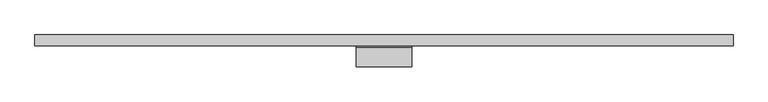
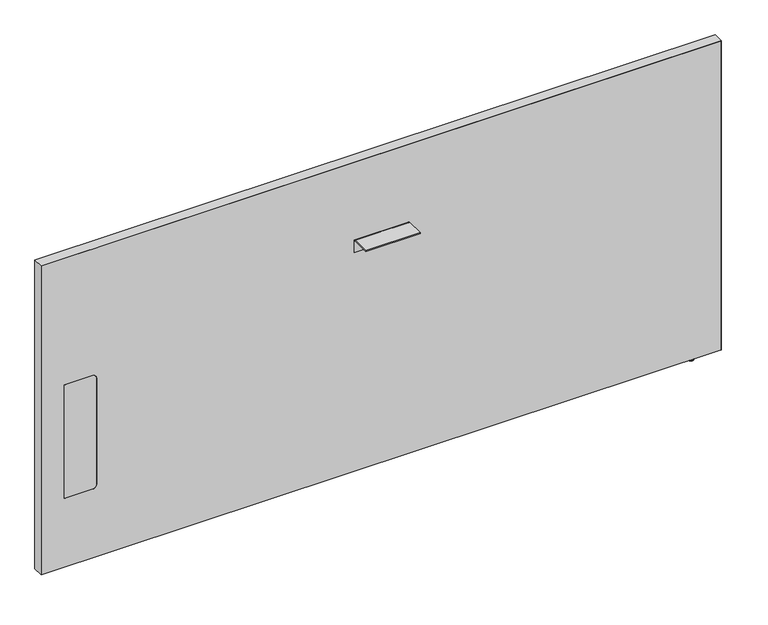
"""IFC4 building model written with IfcOpenShell, lengths in millimetres: furniture geometry, Steelcase - Answer Solution - Boundary Screen - Straight - Single Sided : 36H x 75W."""

from ifc_helpers import new_model, si_unit, point, frame, frame_2d, origin, place, context, project, spatial, polyline, circle_curve, ellipse_curve, trimmed, segment, composite_curve, outline, extrude, source, transform, mapped, element, save
from ifc_brep_helpers import plane_surface, cylinder_surface, revolved_surface, advanced_brep


def furniture_f1a63f30(model_context):
    return source(origin(), model_context, "Body", "SolidModel", [
        extrude(outline(composite_curve([segment(polyline([(-86.8398151, 696.4680019), (-86.8398151, 698.5), (-34.9450855, 698.5)]), True, "CONTINUOUS"), segment(trimmed(circle_curve(frame_2d((-34.9450855, 693.2447477)), 5.2552523), [point((-34.9450855, 698.5))], [point((-29.6898332, 693.2447477))], False, "CARTESIAN"), True, "CONTINUOUS"), segment(polyline([(-29.6898332, 693.2447477), (-29.6898332, 660.4), (-31.7218162, 660.4), (-31.7218162, 693.0058743)]), True, "CONTINUOUS"), segment(trimmed(circle_curve(frame_2d((-35.1839438, 693.0058743)), 3.4621276), [point((-31.7218162, 693.0058743))], [point((-35.1839438, 696.4680019))], True, "CARTESIAN"), True, "CONTINUOUS"), segment(polyline([(-35.1839438, 696.4680019), (-86.8398151, 696.4680019)]), True, "CONTINUOUS")], self_intersect=False)), frame((229.8191407, 0.0, 0.0), z_axis=(1.0, 0.0, 0.0), x_axis=(0.0, 1.0, 0.0)), (0.0, 0.0, 1.0), 152.4000969),
        advanced_brep(
        [(1181.3286488, -23.7588726, 9.9059849), (1181.3286488, -5.9309607, 9.9059849), (1181.3286488, -14.8449166, 9.9059849), (1181.3286488, -23.7588726, 2.9673238), (1181.3286488, -5.9309607, 2.9673238), (1181.3286488, -22.7915354, 2.9673238), (1181.3286488, -6.8982978, 2.9673238), (1181.3286488, -22.7915354, 1.6569081), (1181.3286488, -6.8982978, 1.6569081), (1181.3286488, -21.1346274, 0.0), (1181.3286488, -8.5552059, 0.0), (1181.3286488, -14.8449166, 0.0)],
        [
            (0, 1, circle_curve(frame((1181.3286488, -14.8449166, 9.9059849), z_axis=(0.0, 0.0, 1.0), x_axis=(0.0, 1.0, 0.0)), 8.913956)),
            (1, 2),
            (2, 0),
            (1, 0, circle_curve(frame((1181.3286488, -14.8449166, 9.9059849), z_axis=(0.0, 0.0, 1.0), x_axis=(0.0, 1.0, 0.0)), 8.913956)),
            (3, 4, circle_curve(frame((1181.3286488, -14.8449166, 2.9673238), z_axis=(0.0, 0.0, 1.0), x_axis=(0.0, 1.0, 0.0)), 8.913956)),
            (4, 1),
            (0, 3),
            (4, 3, circle_curve(frame((1181.3286488, -14.8449166, 2.9673238), z_axis=(0.0, 0.0, 1.0), x_axis=(0.0, 1.0, 0.0)), 8.913956)),
            (5, 6, circle_curve(frame((1181.3286488, -14.8449166, 2.9673238), z_axis=(0.0, 0.0, 1.0), x_axis=(0.0, 1.0, 0.0)), 7.9466188)),
            (6, 4),
            (3, 5),
            (6, 5, circle_curve(frame((1181.3286488, -14.8449166, 2.9673238), z_axis=(0.0, 0.0, 1.0), x_axis=(0.0, 1.0, 0.0)), 7.9466188)),
            (7, 8, circle_curve(frame((1181.3286488, -14.8449166, 1.6569081), z_axis=(0.0, 0.0, 1.0), x_axis=(0.0, 1.0, 0.0)), 7.9466188)),
            (8, 6),
            (5, 7),
            (8, 7, circle_curve(frame((1181.3286488, -14.8449166, 1.6569081), z_axis=(0.0, 0.0, 1.0), x_axis=(0.0, 1.0, 0.0)), 7.9466188)),
            (9, 10, circle_curve(frame((1181.3286488, -14.8449166, 0.0), z_axis=(0.0, 0.0, 1.0), x_axis=(0.0, 1.0, 0.0)), 6.2897107)),
            (10, 8, circle_curve(frame((1181.3286488, -8.5552059, 1.6569081), z_axis=(1.0, 0.0, 0.0), x_axis=(0.0, 1.0, 0.0)), 1.6569081)),
            (7, 9, circle_curve(frame((1181.3286488, -21.1346274, 1.6569081), z_axis=(1.0, 0.0, 0.0), x_axis=(0.0, -1.0, 0.0)), 1.6569081)),
            (10, 9, circle_curve(frame((1181.3286488, -14.8449166, 0.0), z_axis=(0.0, 0.0, 1.0), x_axis=(0.0, 1.0, 0.0)), 6.2897107)),
            (11, 10),
            (9, 11),
        ],
        [
            plane_surface(frame((1181.3286488, -14.8449166, 9.9059849), z_axis=(0.0, 0.0, 1.0), x_axis=(0.0, 1.0, 0.0))),
            cylinder_surface(frame((1181.3286488, -14.8449166, 9.9059849), z_axis=(0.0, 0.0, -1.0), x_axis=(0.0, 1.0, 0.0)), 8.913956),
            plane_surface(frame((1181.3286488, -14.8449166, 2.9673238), z_axis=(0.0, 0.0, -1.0), x_axis=(0.0, 1.0, 0.0))),
            cylinder_surface(frame((1181.3286488, -14.8449166, 9.9059849), z_axis=(0.0, 0.0, -1.0), x_axis=(0.0, 1.0, 0.0)), 7.9466188),
            revolved_surface(trimmed(ellipse_curve(frame((1181.3286488, -8.5552059, 1.6569081), z_axis=(-1.0, 0.0, 0.0), x_axis=(0.0, 1.0, 0.0)), 1.6569081, 1.6569081), [point((1181.3286488, -6.8982978, 1.6569081))], [point((1181.3286488, -8.5552059, 0.0))], True, "CARTESIAN"), (1181.3286488, -14.8449166, 9.9059849), (0.0, 0.0, -1.0)),
            plane_surface(frame((1181.3286488, -14.8449166, 0.0), z_axis=(0.0, 0.0, -1.0), x_axis=(0.0, 1.0, 0.0))),
        ],
        [
            (0, [[1, 2, 3]]),
            (0, [[4, -3, -2]]),
            (1, [[5, 6, -1, 7]]),
            (1, [[8, -7, -4, -6]]),
            (2, [[9, 10, -5, 11]]),
            (2, [[12, -11, -8, -10]]),
            (3, [[13, 14, -9, 15]]),
            (3, [[16, -15, -12, -14]]),
            (4, [[17, 18, -13, 19]]),
            (4, [[20, -19, -16, -18]]),
            (5, [[21, -17, 22]]),
            (5, [[-22, -20, -21]]),
        ],
    ),
        advanced_brep(
        [(1257.4780168, 0.0, 924.342118), (1257.4780168, 0.0, 9.9059849), (-645.4902221, 0.0, 9.9059849), (-645.4902221, 0.0, 924.342118), (1257.4780168, -29.6898332, 924.342118), (-645.4902221, -29.6898332, 924.342118), (-645.4902221, -29.6898332, 9.9059849), (1257.4780168, -29.6898332, 9.9059849), (-501.1463873, -29.6898332, 549.6162029), (-490.9863873, -29.6898332, 539.4562029), (-490.9863873, -29.6898332, 223.9362137), (-501.1463873, -29.6898332, 213.7762137), (-580.800285, -29.6898332, 213.7762137), (-580.800285, -29.6898332, 549.6162029), (-580.800285, -29.0550397, 549.6162029), (-501.1463873, -29.0550397, 549.6162029), (-580.800285, -29.0550397, 213.7762137), (-501.1463873, -29.0550397, 213.7762137), (-490.9863873, -29.0550397, 223.9362137), (-490.9863873, -29.0550397, 539.4562029)],
        [
            (0, 1),
            (1, 2),
            (2, 3),
            (3, 0),
            (4, 5),
            (5, 6),
            (6, 7),
            (7, 4),
            (8, 9, circle_curve(frame((-501.1463873, -29.6898332, 539.4562029), z_axis=(0.0, 1.0, 0.0), x_axis=(0.0, 0.0, 1.0)), 10.16)),
            (9, 10),
            (10, 11, circle_curve(frame((-501.1463873, -29.6898332, 223.9362137), z_axis=(0.0, 1.0, 0.0), x_axis=(0.0, 0.0, 1.0)), 10.16)),
            (11, 12),
            (12, 13),
            (13, 8),
            (0, 4),
            (7, 1),
            (6, 2),
            (5, 3),
            (13, 14),
            (14, 15),
            (15, 8),
            (12, 16),
            (16, 14),
            (11, 17),
            (17, 16),
            (10, 18),
            (18, 17, circle_curve(frame((-501.1463873, -29.0550397, 223.9362137), z_axis=(0.0, 1.0, 0.0), x_axis=(0.0, 0.0, 1.0)), 10.16)),
            (9, 19),
            (19, 18),
            (15, 19, circle_curve(frame((-501.1463873, -29.0550397, 539.4562029), z_axis=(0.0, 1.0, 0.0), x_axis=(0.0, 0.0, 1.0)), 10.16)),
        ],
        [
            plane_surface(frame((1257.4780168, 0.0, 924.342118), z_axis=(0.0, 1.0, 0.0), x_axis=(0.0, 0.0, -1.0))),
            plane_surface(frame((1257.4780168, -29.6898332, 924.342118), z_axis=(0.0, -1.0, 0.0), x_axis=(0.0, 0.0, 1.0))),
            plane_surface(frame((1257.4780168, 0.0, 924.342118), z_axis=(1.0, 0.0, 0.0), x_axis=(0.0, -1.0, 0.0))),
            plane_surface(frame((1257.4780168, 0.0, 9.9059849), z_axis=(0.0, 0.0, -1.0), x_axis=(0.0, -1.0, 0.0))),
            plane_surface(frame((-645.4902221, 0.0, 9.9059849), z_axis=(-1.0, 0.0, 0.0), x_axis=(0.0, -1.0, 0.0))),
            plane_surface(frame((-645.4902221, 0.0, 924.342118), z_axis=(0.0, 0.0, 1.0), x_axis=(0.0, -1.0, 0.0))),
            plane_surface(frame((-501.1463873, 0.0, 549.6162029), z_axis=(0.0, 0.0, -1.0), x_axis=(0.0, -1.0, 0.0))),
            plane_surface(frame((-580.800285, 0.0, 549.6162029), z_axis=(1.0, 0.0, 0.0), x_axis=(0.0, -1.0, 0.0))),
            plane_surface(frame((-580.800285, 0.0, 213.7762137), z_axis=(0.0, 0.0, 1.0), x_axis=(0.0, -1.0, 0.0))),
            revolved_surface(polyline([(-501.1463873, -29.6898332, 234.0962137), (-501.1463873, -29.0550397, 234.0962137)]), (-501.1463873, -29.6898332, 223.9362137), (0.0, -1.0, 0.0)),
            plane_surface(frame((-490.9863873, 0.0, 223.9362137), z_axis=(-1.0, 0.0, 0.0), x_axis=(0.0, -1.0, 0.0))),
            revolved_surface(polyline([(-501.1463873, -29.6898332, 549.6162029), (-501.1463873, -29.0550397, 549.6162029)]), (-501.1463873, -29.6898332, 539.4562029), (0.0, -1.0, 0.0)),
            plane_surface(frame((-490.9863873, -29.0550397, 629.172953), z_axis=(0.0, -1.0, 0.0), x_axis=(0.0, 0.0, 1.0))),
        ],
        [
            (0, [[1, 2, 3, 4]]),
            (1, [[5, 6, 7, 8], [9, 10, 11, 12, 13, 14]]),
            (2, [[-1, 15, -8, 16]]),
            (3, [[-2, -16, -7, 17]]),
            (4, [[-3, -17, -6, 18]]),
            (5, [[-4, -18, -5, -15]]),
            (6, [[-14, 19, 20, 21]]),
            (7, [[-13, 22, 23, -19]]),
            (8, [[-12, 24, 25, -22]]),
            (9, [[-11, 26, 27, -24]]),
            (10, [[-10, 28, 29, -26]]),
            (11, [[-9, -21, 30, -28]]),
            (12, [[-20, -23, -25, -27, -29, -30]]),
        ],
    ),
        extrude(outline(composite_curve([segment(polyline([(549.6162029, -501.1463873), (549.6162029, -580.800285), (213.7762137, -580.800285), (213.7762137, -501.1463873)]), True, "CONTINUOUS"), segment(trimmed(circle_curve(frame_2d((223.9362137, -501.1463873)), 10.16), [point((213.7762137, -501.1463873))], [point((223.9362137, -490.9863873))], False, "CARTESIAN"), True, "CONTINUOUS"), segment(polyline([(223.9362137, -490.9863873), (539.4562029, -490.9863873)]), True, "CONTINUOUS"), segment(trimmed(circle_curve(frame_2d((539.4562029, -501.1463873)), 10.16), [point((539.4562029, -490.9863873))], [point((549.6162029, -501.1463873))], False, "CARTESIAN"), True, "CONTINUOUS")], self_intersect=False)), frame((0.0, -29.6898332, 0.0), z_axis=(0.0, 1.0, 0.0), x_axis=(0.0, 0.0, 1.0)), (0.0, 0.0, 1.0), 0.6347935),
        extrude(outline(polyline([(925.322, 1258.5191891), (925.322, -646.4808109), (9.9059849, -646.4808109), (9.9059849, -645.4902221), (924.342118, -645.4902221), (924.342118, 1257.4780168), (9.9059849, 1257.4780168), (9.9059849, 1258.5191891), (925.322, 1258.5191891)])), frame((0.0, -29.6898332, 0.0), z_axis=(0.0, 1.0, 0.0), x_axis=(0.0, 0.0, 1.0)), (0.0, 0.0, 1.0), 29.6898332),
    ])


if __name__ == "__main__":
    model = new_model("IFC4")
    model_context = context("Model", 3, world=origin())
    ifc_project = project(units=[si_unit("LENGTHUNIT", "METRE", prefix="MILLI")], contexts=[model_context])
    site = spatial("IfcSite", under=ifc_project)
    building = spatial("IfcBuilding", under=site)
    placement = place(None, origin())
    furniture_shape = furniture_f1a63f30(model_context)
    element("IfcFurniture", 1, ObjectType="Steelcase - Answer Solution - Boundary Screen - Straight - Single Sided : 36H x 75W", at=placement, inside=building, context=model_context, shape_type="MappedRepresentation", body=[
        mapped(furniture_shape, transform((0.0, 0.0, 0.0), x_axis=(1.0, 0.0, 0.0), y_axis=(0.0, 1.0, 0.0), z_axis=(0.0, 0.0, 1.0))),
    ])
    save(model, "model.ifc")
